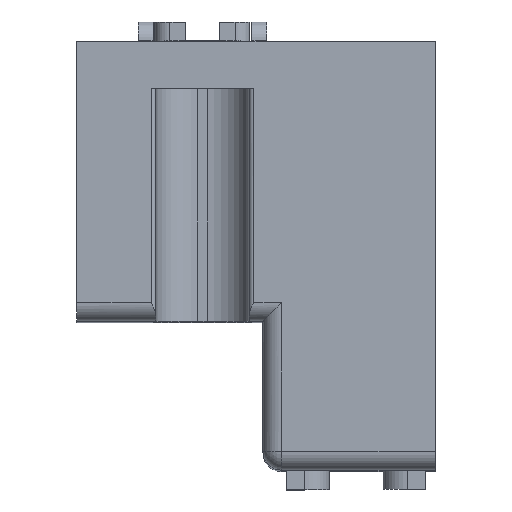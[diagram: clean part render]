
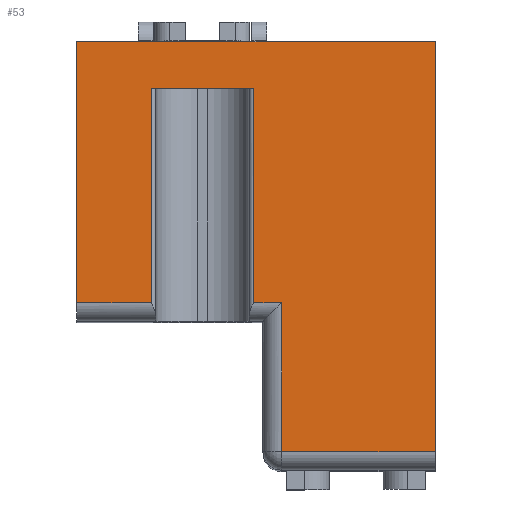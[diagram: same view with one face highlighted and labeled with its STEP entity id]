
A CAD part, top view. The second image highlights one B-rep face of the part: STEP entity #53.
In plain terms, the highlighted planar face has unit normal (0, 0, 1).
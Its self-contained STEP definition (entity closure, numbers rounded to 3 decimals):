
#53=ADVANCED_FACE('',(#531),#530,.T.);
#530=PLANE('',#4104);
#531=FACE_OUTER_BOUND('',#4105,.T.);
#4101=CARTESIAN_POINT('',(-3.85,-0.6,62.2));
#4102=DIRECTION('',(0.,0.,1.));
#4103=DIRECTION('',(0.,-1.,0.));
#4104=AXIS2_PLACEMENT_3D('',#4101,#4102,#4103);
#4105=EDGE_LOOP('',(#5967,#5968,#5969,#5970,#5971,#5972,#5973,#5974,#5975,#5976));
#5967=ORIENTED_EDGE('',*,*,#7968,.F.);
#5968=ORIENTED_EDGE('',*,*,#7971,.T.);
#5969=ORIENTED_EDGE('',*,*,#7972,.T.);
#5970=ORIENTED_EDGE('',*,*,#7973,.F.);
#5971=ORIENTED_EDGE('',*,*,#7974,.F.);
#5972=ORIENTED_EDGE('',*,*,#7975,.T.);
#5973=ORIENTED_EDGE('',*,*,#7976,.F.);
#5974=ORIENTED_EDGE('',*,*,#7912,.F.);
#5975=ORIENTED_EDGE('',*,*,#7932,.T.);
#5976=ORIENTED_EDGE('',*,*,#7977,.T.);
#7912=EDGE_CURVE('',#8931,#8938,#8939,.T.);
#7932=EDGE_CURVE('',#8931,#9065,#9072,.T.);
#7968=EDGE_CURVE('',#9319,#9320,#9321,.T.);
#7971=EDGE_CURVE('',#9319,#9339,#9340,.T.);
#7972=EDGE_CURVE('',#9339,#9346,#9347,.T.);
#7973=EDGE_CURVE('',#9353,#9346,#9354,.T.);
#7974=EDGE_CURVE('',#9360,#9353,#9361,.T.);
#7975=EDGE_CURVE('',#9360,#9367,#9368,.T.);
#7976=EDGE_CURVE('',#8938,#9367,#9374,.T.);
#7977=EDGE_CURVE('',#9065,#9320,#9380,.T.);
#8931=VERTEX_POINT('',#15726);
#8938=VERTEX_POINT('',#15731);
#8939=LINE('',#15732,#15733);
#9065=VERTEX_POINT('',#15812);
#9072=LINE('',#15817,#15818);
#9319=VERTEX_POINT('',#15964);
#9320=VERTEX_POINT('',#15965);
#9321=LINE('',#15966,#15967);
#9339=VERTEX_POINT('',#15980);
#9340=LINE('',#15981,#15982);
#9346=VERTEX_POINT('',#15984);
#9347=LINE('',#15985,#15986);
#9353=VERTEX_POINT('',#15988);
#9354=LINE('',#15989,#15990);
#9360=VERTEX_POINT('',#15992);
#9361=LINE('',#15993,#15994);
#9367=VERTEX_POINT('',#15996);
#9368=LINE('',#15997,#15998);
#9374=LINE('',#16000,#16001);
#9380=LINE('',#16003,#16004);
#15726=CARTESIAN_POINT('',(8.,-10.,62.2));
#15731=CARTESIAN_POINT('',(8.,-33.,62.2));
#15732=CARTESIAN_POINT('',(8.,-10.,62.2));
#15733=VECTOR('',#15734,23.);
#15734=DIRECTION('',(0.,-1.,0.));
#15812=CARTESIAN_POINT('',(19.,-10.,62.2));
#15817=CARTESIAN_POINT('',(8.,-10.,62.2));
#15818=VECTOR('',#15819,11.);
#15819=DIRECTION('',(1.,0.,0.));
#15964=CARTESIAN_POINT('',(22.,-33.,62.2));
#15965=CARTESIAN_POINT('',(19.,-33.,62.2));
#15966=CARTESIAN_POINT('',(22.,-33.,62.2));
#15967=VECTOR('',#15968,3.);
#15968=DIRECTION('',(-1.,0.,0.));
#15980=CARTESIAN_POINT('',(22.,-49.,62.2));
#15981=CARTESIAN_POINT('',(22.,-33.,62.2));
#15982=VECTOR('',#15983,16.);
#15983=DIRECTION('',(0.,-1.,0.));
#15984=CARTESIAN_POINT('',(38.5,-49.,62.2));
#15985=CARTESIAN_POINT('',(22.,-49.,62.2));
#15986=VECTOR('',#15987,16.5);
#15987=DIRECTION('',(1.,0.,0.));
#15988=CARTESIAN_POINT('',(38.5,-5.,62.2));
#15989=CARTESIAN_POINT('',(38.5,-5.,62.2));
#15990=VECTOR('',#15991,44.);
#15991=DIRECTION('',(0.,-1.,0.));
#15992=CARTESIAN_POINT('',(0.,-5.,62.2));
#15993=CARTESIAN_POINT('',(0.,-5.,62.2));
#15994=VECTOR('',#15995,38.5);
#15995=DIRECTION('',(1.,0.,0.));
#15996=CARTESIAN_POINT('',(0.,-33.,62.2));
#15997=CARTESIAN_POINT('',(0.,-5.,62.2));
#15998=VECTOR('',#15999,28.);
#15999=DIRECTION('',(0.,-1.,0.));
#16000=CARTESIAN_POINT('',(8.,-33.,62.2));
#16001=VECTOR('',#16002,8.);
#16002=DIRECTION('',(-1.,0.,0.));
#16003=CARTESIAN_POINT('',(19.,-10.,62.2));
#16004=VECTOR('',#16005,23.);
#16005=DIRECTION('',(0.,-1.,0.));
